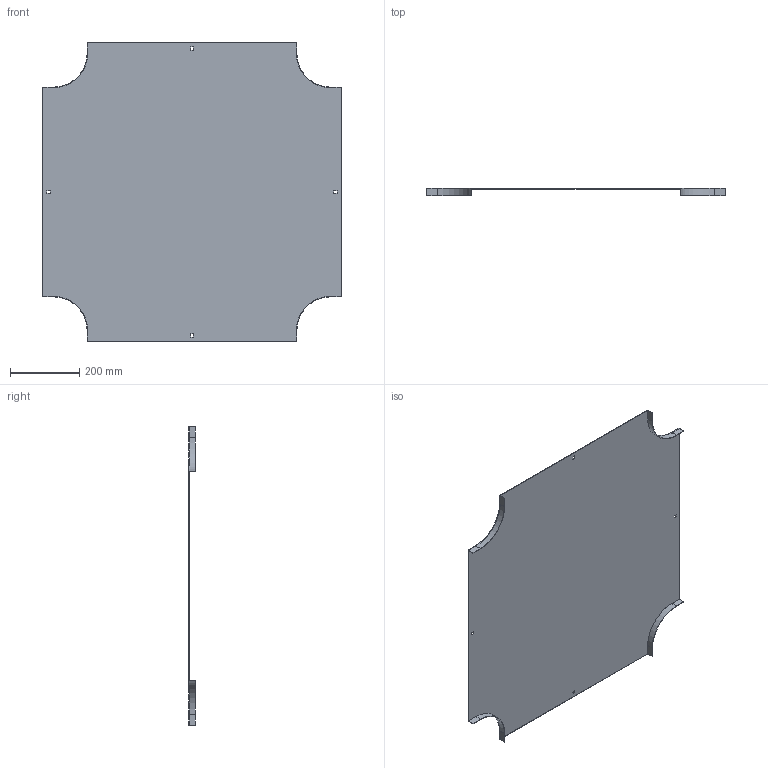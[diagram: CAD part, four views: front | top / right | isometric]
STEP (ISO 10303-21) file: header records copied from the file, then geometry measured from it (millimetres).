
FILE_DESCRIPTION (( 'STEP AP214' ), '1' );
FILE_NAME ('17G1R600.step', '2025-02-21T13:03:30', ( '' ), ( '' ), 'SwSTEP 2.0', 'SolidWorks 2023', '' );
FILE_SCHEMA (( 'AUTOMOTIVE_DESIGN' ));
Length unit declared in the file: millimetre
Products named in the file (1): 17G1R600
Bounding box: 864 x 20 x 864 mm (x, y, z)
Volume: 1056777.3 mm3; surface area: 1414374.7 mm2
Topology: 1 solids, 1 shells, 50 faces, 144 edges, 96 vertices
Faces by surface type: plane 42, cylinder 8
Entity records: 1663 total; most frequent: CARTESIAN_POINT 291, ORIENTED_EDGE 288, DIRECTION 262, EDGE_CURVE 144, LINE 128, VECTOR 128, VERTEX_POINT 96, AXIS2_PLACEMENT_3D 67
